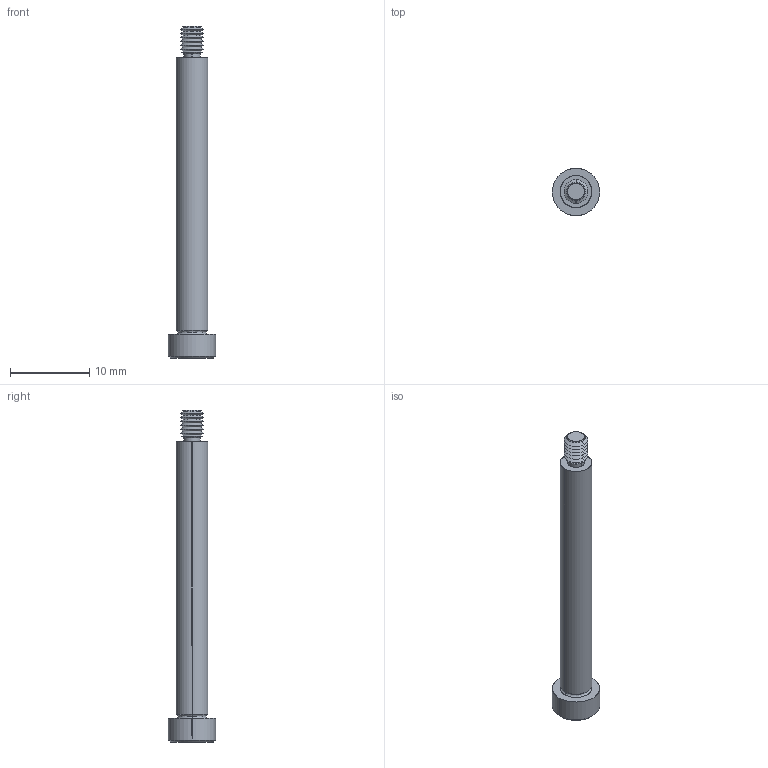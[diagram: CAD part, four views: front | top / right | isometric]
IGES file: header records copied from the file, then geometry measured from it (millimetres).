
Start section: SolidWorks IGES file using analytic representation for surfaces
Global section: file name: C:\Users\IanO\Documents\Temp Folder\GENERAL\SCREW REVISION\P0130_v2\P0130.T5_v2_20220106_IGES\P0130.040-035-T5.igs; native system: SolidWorks 2019; preprocessor: SolidWorks 2019; author: IanO; date: 220106.221008; units: millimetre
Bounding box: 6 x 6 x 42 mm (x, y, z)
Surface area: 624.7 mm2 (no closed solid volume)
Topology: 0 solids, 0 shells, 68 faces, 520 edges, 518 vertices
Faces by surface type: revolution 48, bspline 20
